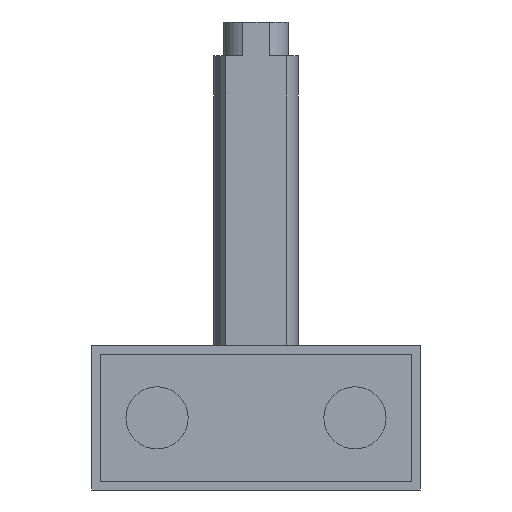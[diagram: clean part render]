
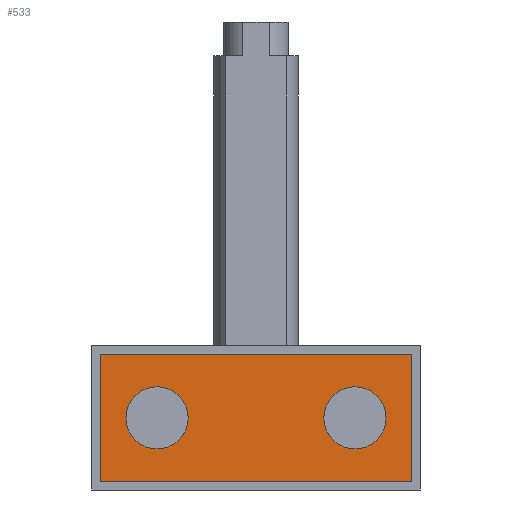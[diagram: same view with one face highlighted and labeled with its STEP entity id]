
A CAD part, front view. The second image highlights one B-rep face of the part: STEP entity #533.
In plain terms, the highlighted planar face has unit normal (0, -1, 0).
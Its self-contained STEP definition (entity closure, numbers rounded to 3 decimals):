
#113 = DIRECTION ( 'NONE',  ( 0., 0., 1. ) ) ;
#144 = FACE_OUTER_BOUND ( 'NONE', #464, .T. ) ;
#145 = FACE_BOUND ( 'NONE', #524, .T. ) ;
#146 = AXIS2_PLACEMENT_3D ( 'NONE', #157, #156, #113 ) ;
#148 = FACE_BOUND ( 'NONE', #455, .T. ) ;
#150 = PLANE ( 'NONE',  #146 ) ;
#156 = DIRECTION ( 'NONE',  ( 0., 1., 0. ) ) ;
#157 = CARTESIAN_POINT ( 'NONE',  ( 5.5, -113.25, -11.45 ) ) ;
#453 = VERTEX_POINT ( 'NONE', #1749 ) ;
#455 = EDGE_LOOP ( 'NONE', ( #531, #460 ) ) ;
#459 = ORIENTED_EDGE ( 'NONE', *, *, #465, .T. ) ;
#460 = ORIENTED_EDGE ( 'NONE', *, *, #627, .F. ) ;
#461 = VERTEX_POINT ( 'NONE', #1807 ) ;
#462 = VERTEX_POINT ( 'NONE', #1832 ) ;
#463 = EDGE_CURVE ( 'NONE', #634, #661, #1821, .T. ) ;
#464 = EDGE_LOOP ( 'NONE', ( #459, #525, #527, #466 ) ) ;
#465 = EDGE_CURVE ( 'NONE', #461, #462, #1814, .T. ) ;
#466 = ORIENTED_EDGE ( 'NONE', *, *, #473, .F. ) ;
#473 = EDGE_CURVE ( 'NONE', #461, #480, #1873, .T. ) ;
#474 = EDGE_CURVE ( 'NONE', #664, #674, #1855, .T. ) ;
#476 = ORIENTED_EDGE ( 'NONE', *, *, #474, .F. ) ;
#480 = VERTEX_POINT ( 'NONE', #1856 ) ;
#483 = EDGE_CURVE ( 'NONE', #462, #453, #1861, .T. ) ;
#524 = EDGE_LOOP ( 'NONE', ( #476, #537 ) ) ;
#525 = ORIENTED_EDGE ( 'NONE', *, *, #483, .T. ) ;
#526 = EDGE_CURVE ( 'NONE', #480, #453, #1900, .T. ) ;
#527 = ORIENTED_EDGE ( 'NONE', *, *, #526, .F. ) ;
#531 = ORIENTED_EDGE ( 'NONE', *, *, #463, .F. ) ;
#533 = ADVANCED_FACE ( 'NONE', ( #148, #144, #145 ), #150, .F. ) ;
#537 = ORIENTED_EDGE ( 'NONE', *, *, #666, .F. ) ;
#627 = EDGE_CURVE ( 'NONE', #661, #634, #1128, .T. ) ;
#634 = VERTEX_POINT ( 'NONE', #1129 ) ;
#661 = VERTEX_POINT ( 'NONE', #1198 ) ;
#664 = VERTEX_POINT ( 'NONE', #1154 ) ;
#666 = EDGE_CURVE ( 'NONE', #674, #664, #1203, .T. ) ;
#674 = VERTEX_POINT ( 'NONE', #1220 ) ;
#1120 = DIRECTION ( 'NONE',  ( 0., 0., 1. ) ) ;
#1121 = DIRECTION ( 'NONE',  ( 0., -1., 0. ) ) ;
#1122 = CARTESIAN_POINT ( 'NONE',  ( 3.5, -113.25, -14. ) ) ;
#1123 = AXIS2_PLACEMENT_3D ( 'NONE', #1122, #1121, #1120 ) ;
#1128 = CIRCLE ( 'NONE', #1123, 1.1 ) ;
#1129 = CARTESIAN_POINT ( 'NONE',  ( 3.5, -113.25, -12.9 ) ) ;
#1154 = CARTESIAN_POINT ( 'NONE',  ( -3.5, -113.25, -12.9 ) ) ;
#1186 = AXIS2_PLACEMENT_3D ( 'NONE', #1230, #1229, #1228 ) ;
#1198 = CARTESIAN_POINT ( 'NONE',  ( 3.5, -113.25, -15.1 ) ) ;
#1203 = CIRCLE ( 'NONE', #1186, 1.1 ) ;
#1220 = CARTESIAN_POINT ( 'NONE',  ( -3.5, -113.25, -15.1 ) ) ;
#1228 = DIRECTION ( 'NONE',  ( 0., 0., 1. ) ) ;
#1229 = DIRECTION ( 'NONE',  ( 0., -1., 0. ) ) ;
#1230 = CARTESIAN_POINT ( 'NONE',  ( -3.5, -113.25, -14. ) ) ;
#1749 = CARTESIAN_POINT ( 'NONE',  ( 5.5, -113.25, -16.25 ) ) ;
#1752 = DIRECTION ( 'NONE',  ( 0., 0., -1. ) ) ;
#1753 = VECTOR ( 'NONE', #1752, 1000. ) ;
#1807 = CARTESIAN_POINT ( 'NONE',  ( -5.5, -113.25, -11.75 ) ) ;
#1814 = LINE ( 'NONE', #1828, #1827 ) ;
#1818 = DIRECTION ( 'NONE',  ( 0., 0., 1. ) ) ;
#1819 = DIRECTION ( 'NONE',  ( 0., -1., 0. ) ) ;
#1820 = AXIS2_PLACEMENT_3D ( 'NONE', #1833, #1819, #1818 ) ;
#1821 = CIRCLE ( 'NONE', #1820, 1.1 ) ;
#1826 = DIRECTION ( 'NONE',  ( 0., 0., -1. ) ) ;
#1827 = VECTOR ( 'NONE', #1826, 1000. ) ;
#1828 = CARTESIAN_POINT ( 'NONE',  ( -5.5, -113.25, -11.45 ) ) ;
#1832 = CARTESIAN_POINT ( 'NONE',  ( -5.5, -113.25, -16.25 ) ) ;
#1833 = CARTESIAN_POINT ( 'NONE',  ( 3.5, -113.25, -14. ) ) ;
#1844 = DIRECTION ( 'NONE',  ( 0., -1., 0. ) ) ;
#1845 = CARTESIAN_POINT ( 'NONE',  ( -3.5, -113.25, -14. ) ) ;
#1848 = VECTOR ( 'NONE', #1851, 1000. ) ;
#1851 = DIRECTION ( 'NONE',  ( 1., 0., 0. ) ) ;
#1852 = CARTESIAN_POINT ( 'NONE',  ( -5.8, -113.25, -11.75 ) ) ;
#1853 = VECTOR ( 'NONE', #1865, 1000. ) ;
#1854 = DIRECTION ( 'NONE',  ( 0., 0., 1. ) ) ;
#1855 = CIRCLE ( 'NONE', #1860, 1.1 ) ;
#1856 = CARTESIAN_POINT ( 'NONE',  ( 5.5, -113.25, -11.75 ) ) ;
#1860 = AXIS2_PLACEMENT_3D ( 'NONE', #1845, #1844, #1854 ) ;
#1861 = LINE ( 'NONE', #1863, #1853 ) ;
#1863 = CARTESIAN_POINT ( 'NONE',  ( -5.8, -113.25, -16.25 ) ) ;
#1865 = DIRECTION ( 'NONE',  ( 1., 0., 0. ) ) ;
#1873 = LINE ( 'NONE', #1852, #1848 ) ;
#1899 = CARTESIAN_POINT ( 'NONE',  ( 5.5, -113.25, -11.45 ) ) ;
#1900 = LINE ( 'NONE', #1899, #1753 ) ;
